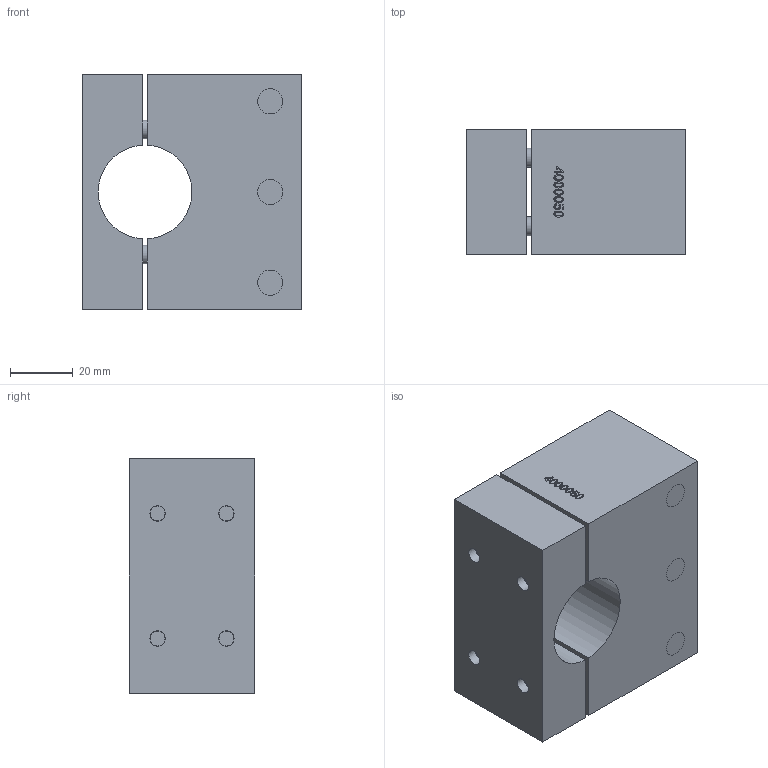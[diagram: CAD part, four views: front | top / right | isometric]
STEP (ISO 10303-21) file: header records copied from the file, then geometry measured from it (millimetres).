
FILE_DESCRIPTION((''),'2;1');
FILE_NAME('V:\CAD\Inventor-Stp\Linearelemente\Kugelbüchsenführungen\GLE 32\inv-web\4000050.stp','2007-05-29T14:26:17',('is'),(''),'Autodesk Inventor 10','Autodesk Inventor 10','');
FILE_SCHEMA(('AUTOMOTIVE_DESIGN { 1 0 10303 214 1 1 1 1 }'));
Length unit declared in the file: millimetre
Products named in the file (1): 4000050
Bounding box: 70 x 40 x 75 mm (x, y, z)
Volume: 177275.2 mm3; surface area: 36293.6 mm2
Topology: 1 solids, 1 shells, 184 faces, 443 edges, 295 vertices
Faces by surface type: plane 87, bspline 75, cylinder 10, cone 8, torus 4
Full cylindrical faces by diameter (mm): 6 x4, 10 x4
Entity records: 6750 total; most frequent: CARTESIAN_POINT 3101, ORIENTED_EDGE 798, DIRECTION 532, EDGE_CURVE 399, VERTEX_POINT 283, EDGE_LOOP 256, VECTOR 202, LINE 202
